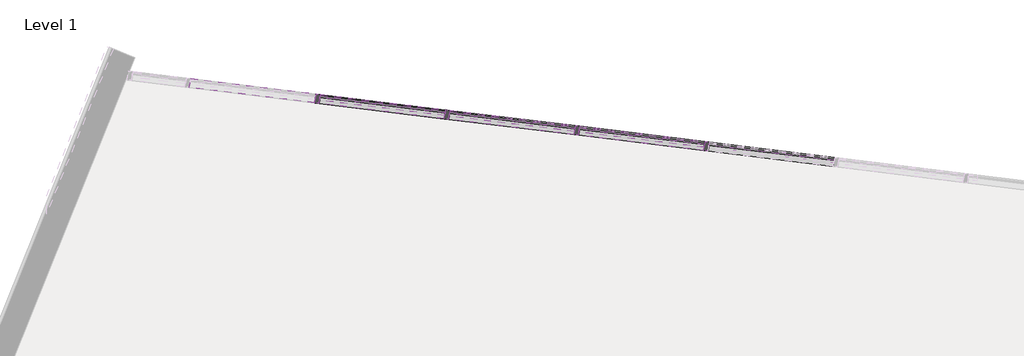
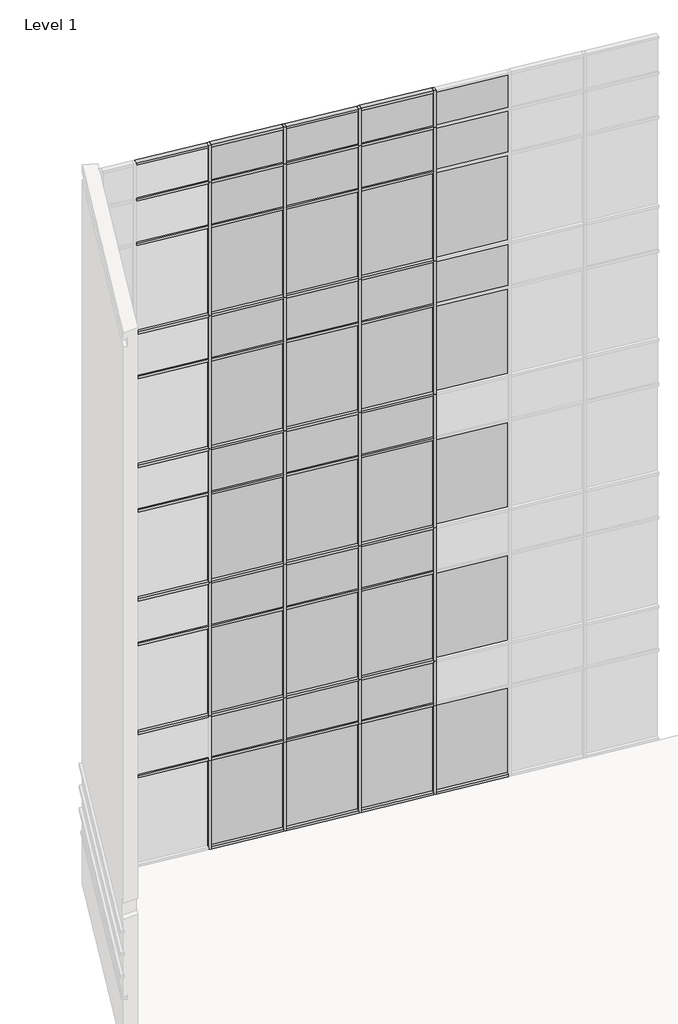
# One storey, part 16 of 23: 75 members, 41 plates.
"""IFC4 building model written with IfcOpenShell, lengths in millimetres."""

from ifc_helpers import new_model, si_unit, origin, place, context, project, spatial, transform, mapped, element, save
from components import member_2b49869a, member_f92b8aa2, member_810865a4, member_f0fea5a5, member_6d5c3e5e, member_9764dd38, system_panel_glazed_14c75400, system_panel_solid_5dfe6f83, system_panel_solid_e25e2004, system_panel_solid_b7551183

model = new_model("IFC4")

# Units and contexts
model_context = context("Model", 3, world=origin())
ifc_project = project(units=[si_unit("LENGTHUNIT", "METRE", prefix="MILLI")], contexts=[model_context])

# Site, building, storey
site = spatial("IfcSite", under=ifc_project)
building = spatial("IfcBuilding", under=site)
storey = spatial("IfcBuildingStorey", under=building, Name="Level 1", Elevation=0.0)

# Members
placement = place(None, origin())
member_shape = member_2b49869a(model_context)
element("IfcMember", 1, ObjectType="Rectangular Mullion : 2.5\" x 5\" rectangular", at=placement, inside=storey, context=model_context, shape_type="MappedRepresentation", body=[
    mapped(member_shape, transform((-22037.0151762, 14577.1664087, 2438.4), x_axis=(0.9925461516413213, -0.12186934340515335, 0.0), y_axis=(-0.12186934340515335, -0.9925461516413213, 0.0), z_axis=(0.0, 0.0, -1.0))),
])
element("IfcMember", 2, ObjectType="Rectangular Mullion : 2.5\" x 5\" rectangular", at=placement, inside=storey, context=model_context, shape_type="MappedRepresentation", body=[
    mapped(member_shape, transform((-23852.1835783, 14800.0410639, 2438.4), x_axis=(0.9925461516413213, -0.12186934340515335, 0.0), y_axis=(-0.12186934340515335, -0.9925461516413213, 0.0), z_axis=(0.0, 0.0, -1.0))),
])
element("IfcMember", 3, ObjectType="Rectangular Mullion : 2.5\" x 5\" rectangular", at=placement, inside=storey, context=model_context, shape_type="MappedRepresentation", body=[
    mapped(member_shape, transform((-25667.3519804, 15022.9157192, 2438.4), x_axis=(0.9925461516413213, -0.12186934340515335, 0.0), y_axis=(-0.12186934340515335, -0.9925461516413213, 0.0), z_axis=(0.0, 0.0, -1.0))),
])
member_2_shape = member_f92b8aa2(model_context)
element("IfcMember", 4, ObjectType="Rectangular Mullion : 2.5\" x 5\" rectangular", at=placement, inside=storey, context=model_context, shape_type="MappedRepresentation", body=[
    mapped(member_2_shape, transform((-22037.0151762, 14577.1664087, 18288.0), x_axis=(0.9925461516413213, -0.12186934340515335, 0.0), y_axis=(-0.12186934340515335, -0.9925461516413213, 0.0), z_axis=(0.0, 0.0, -1.0))),
])
element("IfcMember", 5, ObjectType="Rectangular Mullion : 2.5\" x 5\" rectangular", at=placement, inside=storey, context=model_context, shape_type="MappedRepresentation", body=[
    mapped(member_2_shape, transform((-23852.1835783, 14800.0410639, 18288.0), x_axis=(0.9925461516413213, -0.12186934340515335, 0.0), y_axis=(-0.12186934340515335, -0.9925461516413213, 0.0), z_axis=(0.0, 0.0, -1.0))),
])
element("IfcMember", 6, ObjectType="Rectangular Mullion : 2.5\" x 5\" rectangular", at=placement, inside=storey, context=model_context, shape_type="MappedRepresentation", body=[
    mapped(member_2_shape, transform((-25667.3519804, 15022.9157192, 18288.0), x_axis=(0.9925461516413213, -0.12186934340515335, 0.0), y_axis=(-0.12186934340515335, -0.9925461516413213, 0.0), z_axis=(0.0, 0.0, -1.0))),
])
element("IfcMember", 7, ObjectType="Rectangular Mullion : 2.5\" x 5\" rectangular", at=placement, inside=storey, context=model_context, shape_type="MappedRepresentation", body=[
    mapped(member_2_shape, transform((-27482.5203826, 15245.7903744, 18288.0), x_axis=(0.9925461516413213, -0.12186934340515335, 0.0), y_axis=(-0.12186934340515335, -0.9925461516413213, 0.0), z_axis=(0.0, 0.0, -1.0))),
])
member_3_shape = member_810865a4(model_context)
element("IfcMember", 8, ObjectType="Rectangular Mullion : 2.5\" x 5\" rectangular", at=placement, inside=storey, context=model_context, shape_type="MappedRepresentation", body=[
    mapped(member_3_shape, transform((-22037.0151762, 14577.1664087, 14630.4), x_axis=(0.9925461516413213, -0.12186934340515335, 0.0), y_axis=(-0.12186934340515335, -0.9925461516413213, 0.0), z_axis=(0.0, 0.0, -1.0))),
])
element("IfcMember", 9, ObjectType="Rectangular Mullion : 2.5\" x 5\" rectangular", at=placement, inside=storey, context=model_context, shape_type="MappedRepresentation", body=[
    mapped(member_3_shape, transform((-22037.0151762, 14577.1664087, 10972.8), x_axis=(0.9925461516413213, -0.12186934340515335, 0.0), y_axis=(-0.12186934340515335, -0.9925461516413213, 0.0), z_axis=(0.0, 0.0, -1.0))),
])
element("IfcMember", 10, ObjectType="Rectangular Mullion : 2.5\" x 5\" rectangular", at=placement, inside=storey, context=model_context, shape_type="MappedRepresentation", body=[
    mapped(member_3_shape, transform((-22037.0151762, 14577.1664087, 7315.2), x_axis=(0.9925461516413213, -0.12186934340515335, 0.0), y_axis=(-0.12186934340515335, -0.9925461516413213, 0.0), z_axis=(0.0, 0.0, -1.0))),
])
element("IfcMember", 11, ObjectType="Rectangular Mullion : 2.5\" x 5\" rectangular", at=placement, inside=storey, context=model_context, shape_type="MappedRepresentation", body=[
    mapped(member_3_shape, transform((-22037.0151762, 14577.1664087, 3657.6), x_axis=(0.9925461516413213, -0.12186934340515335, 0.0), y_axis=(-0.12186934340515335, -0.9925461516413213, 0.0), z_axis=(0.0, 0.0, -1.0))),
])
element("IfcMember", 12, ObjectType="Rectangular Mullion : 2.5\" x 5\" rectangular", at=placement, inside=storey, context=model_context, shape_type="MappedRepresentation", body=[
    mapped(member_3_shape, transform((-23852.1835783, 14800.0410639, 14630.4), x_axis=(0.9925461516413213, -0.12186934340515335, 0.0), y_axis=(-0.12186934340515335, -0.9925461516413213, 0.0), z_axis=(0.0, 0.0, -1.0))),
])
element("IfcMember", 13, ObjectType="Rectangular Mullion : 2.5\" x 5\" rectangular", at=placement, inside=storey, context=model_context, shape_type="MappedRepresentation", body=[
    mapped(member_3_shape, transform((-23852.1835783, 14800.0410639, 10972.8), x_axis=(0.9925461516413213, -0.12186934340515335, 0.0), y_axis=(-0.12186934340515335, -0.9925461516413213, 0.0), z_axis=(0.0, 0.0, -1.0))),
])
element("IfcMember", 14, ObjectType="Rectangular Mullion : 2.5\" x 5\" rectangular", at=placement, inside=storey, context=model_context, shape_type="MappedRepresentation", body=[
    mapped(member_3_shape, transform((-23852.1835783, 14800.0410639, 7315.2), x_axis=(0.9925461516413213, -0.12186934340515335, 0.0), y_axis=(-0.12186934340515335, -0.9925461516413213, 0.0), z_axis=(0.0, 0.0, -1.0))),
])
element("IfcMember", 15, ObjectType="Rectangular Mullion : 2.5\" x 5\" rectangular", at=placement, inside=storey, context=model_context, shape_type="MappedRepresentation", body=[
    mapped(member_3_shape, transform((-23852.1835783, 14800.0410639, 3657.6), x_axis=(0.9925461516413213, -0.12186934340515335, 0.0), y_axis=(-0.12186934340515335, -0.9925461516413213, 0.0), z_axis=(0.0, 0.0, -1.0))),
])
element("IfcMember", 16, ObjectType="Rectangular Mullion : 2.5\" x 5\" rectangular", at=placement, inside=storey, context=model_context, shape_type="MappedRepresentation", body=[
    mapped(member_3_shape, transform((-25667.3519804, 15022.9157192, 14630.4), x_axis=(0.9925461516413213, -0.12186934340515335, 0.0), y_axis=(-0.12186934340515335, -0.9925461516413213, 0.0), z_axis=(0.0, 0.0, -1.0))),
])
element("IfcMember", 17, ObjectType="Rectangular Mullion : 2.5\" x 5\" rectangular", at=placement, inside=storey, context=model_context, shape_type="MappedRepresentation", body=[
    mapped(member_3_shape, transform((-25667.3519804, 15022.9157192, 10972.8), x_axis=(0.9925461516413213, -0.12186934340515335, 0.0), y_axis=(-0.12186934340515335, -0.9925461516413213, 0.0), z_axis=(0.0, 0.0, -1.0))),
])
element("IfcMember", 18, ObjectType="Rectangular Mullion : 2.5\" x 5\" rectangular", at=placement, inside=storey, context=model_context, shape_type="MappedRepresentation", body=[
    mapped(member_3_shape, transform((-25667.3519804, 15022.9157192, 7315.2), x_axis=(0.9925461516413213, -0.12186934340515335, 0.0), y_axis=(-0.12186934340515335, -0.9925461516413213, 0.0), z_axis=(0.0, 0.0, -1.0))),
])
element("IfcMember", 19, ObjectType="Rectangular Mullion : 2.5\" x 5\" rectangular", at=placement, inside=storey, context=model_context, shape_type="MappedRepresentation", body=[
    mapped(member_3_shape, transform((-25667.3519804, 15022.9157192, 3657.6), x_axis=(0.9925461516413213, -0.12186934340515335, 0.0), y_axis=(-0.12186934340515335, -0.9925461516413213, 0.0), z_axis=(0.0, 0.0, -1.0))),
])
element("IfcMember", 20, ObjectType="Rectangular Mullion : 2.5\" x 5\" rectangular", at=placement, inside=storey, context=model_context, shape_type="MappedRepresentation", body=[
    mapped(member_3_shape, transform((-27482.5203826, 15245.7903744, 14630.4), x_axis=(0.9925461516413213, -0.12186934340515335, 0.0), y_axis=(-0.12186934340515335, -0.9925461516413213, 0.0), z_axis=(0.0, 0.0, -1.0))),
])
element("IfcMember", 21, ObjectType="Rectangular Mullion : 2.5\" x 5\" rectangular", at=placement, inside=storey, context=model_context, shape_type="MappedRepresentation", body=[
    mapped(member_3_shape, transform((-27482.5203826, 15245.7903744, 10972.8), x_axis=(0.9925461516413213, -0.12186934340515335, 0.0), y_axis=(-0.12186934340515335, -0.9925461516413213, 0.0), z_axis=(0.0, 0.0, -1.0))),
])
element("IfcMember", 22, ObjectType="Rectangular Mullion : 2.5\" x 5\" rectangular", at=placement, inside=storey, context=model_context, shape_type="MappedRepresentation", body=[
    mapped(member_3_shape, transform((-27482.5203826, 15245.7903744, 7315.2), x_axis=(0.9925461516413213, -0.12186934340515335, 0.0), y_axis=(-0.12186934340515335, -0.9925461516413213, 0.0), z_axis=(0.0, 0.0, -1.0))),
])
element("IfcMember", 23, ObjectType="Rectangular Mullion : 2.5\" x 5\" rectangular", at=placement, inside=storey, context=model_context, shape_type="MappedRepresentation", body=[
    mapped(member_3_shape, transform((-27482.5203826, 15245.7903744, 3657.6), x_axis=(0.9925461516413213, -0.12186934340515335, 0.0), y_axis=(-0.12186934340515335, -0.9925461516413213, 0.0), z_axis=(0.0, 0.0, -1.0))),
])
member_4_shape = member_f0fea5a5(model_context)
element("IfcMember", 24, ObjectType="Rectangular Mullion : 2.5\" x 5\" rectangular", at=placement, inside=storey, context=model_context, shape_type="MappedRepresentation", body=[
    mapped(member_4_shape, transform((-22037.0151762, 14577.1664087, 0.0), x_axis=(0.9925461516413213, -0.12186934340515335, 0.0), y_axis=(-0.12186934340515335, -0.9925461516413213, 0.0), z_axis=(0.0, 0.0, -1.0))),
])
element("IfcMember", 25, ObjectType="Rectangular Mullion : 2.5\" x 5\" rectangular", at=placement, inside=storey, context=model_context, shape_type="MappedRepresentation", body=[
    mapped(member_4_shape, transform((-27482.5203826, 15245.7903744, 0.0), x_axis=(0.9925461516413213, -0.12186934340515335, 0.0), y_axis=(-0.12186934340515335, -0.9925461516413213, 0.0), z_axis=(0.0, 0.0, -1.0))),
])
element("IfcMember", 26, ObjectType="Rectangular Mullion : 2.5\" x 5\" rectangular", at=placement, inside=storey, context=model_context, shape_type="MappedRepresentation", body=[
    mapped(member_4_shape, transform((-23852.1835783, 14800.0410639, 0.0), x_axis=(0.9925461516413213, -0.12186934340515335, 0.0), y_axis=(-0.12186934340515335, -0.9925461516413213, 0.0), z_axis=(0.0, 0.0, -1.0))),
])
element("IfcMember", 27, ObjectType="Rectangular Mullion : 2.5\" x 5\" rectangular", at=placement, inside=storey, context=model_context, shape_type="MappedRepresentation", body=[
    mapped(member_4_shape, transform((-25667.3519804, 15022.9157192, 0.0), x_axis=(0.9925461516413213, -0.12186934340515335, 0.0), y_axis=(-0.12186934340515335, -0.9925461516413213, 0.0), z_axis=(0.0, 0.0, -1.0))),
])
member_5_shape = member_6d5c3e5e(model_context)
element("IfcMember", 28, ObjectType="Rectangular Mullion : 2.5\" x 5\" rectangular", at=placement, inside=storey, context=model_context, shape_type="MappedRepresentation", body=[
    mapped(member_5_shape, transform((-22068.5285165, 14581.0357604, 19304.0), x_axis=(0.0, 0.0, 1.0), y_axis=(-0.12186934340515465, -0.9925461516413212, 0.0), z_axis=(0.9925461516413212, -0.12186934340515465, 0.0))),
])
element("IfcMember", 29, ObjectType="Rectangular Mullion : 2.5\" x 5\" rectangular", at=placement, inside=storey, context=model_context, shape_type="MappedRepresentation", body=[
    mapped(member_5_shape, transform((-23883.6969186, 14803.9104156, 19304.0), x_axis=(0.0, 0.0, 1.0), y_axis=(-0.12186934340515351, -0.9925461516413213, 0.0), z_axis=(0.9925461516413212, -0.1218693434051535, 0.0))),
])
element("IfcMember", 30, ObjectType="Rectangular Mullion : 2.5\" x 5\" rectangular", at=placement, inside=storey, context=model_context, shape_type="MappedRepresentation", body=[
    mapped(member_5_shape, transform((-25698.8653208, 15026.7850708, 19304.0), x_axis=(0.0, 0.0, 1.0), y_axis=(-0.12186934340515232, -0.9925461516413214, 0.0), z_axis=(0.9925461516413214, -0.12186934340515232, 0.0))),
])
element("IfcMember", 31, ObjectType="Rectangular Mullion : 2.5\" x 5\" rectangular", at=placement, inside=storey, context=model_context, shape_type="MappedRepresentation", body=[
    mapped(member_5_shape, transform((-27514.0337229, 15249.659726, 19304.0), x_axis=(0.0, 0.0, 1.0), y_axis=(-0.12186934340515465, -0.9925461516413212, 0.0), z_axis=(0.9925461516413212, -0.12186934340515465, 0.0))),
])
member_6_shape = member_9764dd38(model_context)
element("IfcMember", 32, ObjectType="Rectangular Mullion : 2.5\" x 5\" rectangular", at=placement, inside=storey, context=model_context, shape_type="MappedRepresentation", body=[
    mapped(member_6_shape, transform((-22068.5285165, 14581.0357604, 17068.8), x_axis=(0.0, 0.0, 1.0), y_axis=(-0.12186934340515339, -0.9925461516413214, 0.0), z_axis=(0.9925461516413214, -0.12186934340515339, 0.0))),
])
element("IfcMember", 33, ObjectType="Rectangular Mullion : 2.5\" x 5\" rectangular", at=placement, inside=storey, context=model_context, shape_type="MappedRepresentation", body=[
    mapped(member_6_shape, transform((-23883.6969186, 14803.9104156, 17068.8), x_axis=(0.0, 0.0, 1.0), y_axis=(-0.12186934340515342, -0.9925461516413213, 0.0), z_axis=(0.9925461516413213, -0.12186934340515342, 0.0))),
])
element("IfcMember", 34, ObjectType="Rectangular Mullion : 2.5\" x 5\" rectangular", at=placement, inside=storey, context=model_context, shape_type="MappedRepresentation", body=[
    mapped(member_6_shape, transform((-25698.8653208, 15026.7850708, 17068.8), x_axis=(0.0, 0.0, 1.0), y_axis=(-0.12186934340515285, -0.9925461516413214, 0.0), z_axis=(0.9925461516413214, -0.12186934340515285, 0.0))),
])
element("IfcMember", 35, ObjectType="Rectangular Mullion : 2.5\" x 5\" rectangular", at=placement, inside=storey, context=model_context, shape_type="MappedRepresentation", body=[
    mapped(member_6_shape, transform((-27514.0337229, 15249.659726, 17068.8), x_axis=(0.0, 0.0, 1.0), y_axis=(-0.12186934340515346, -0.9925461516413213, 0.0), z_axis=(0.9925461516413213, -0.12186934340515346, 0.0))),
])
element("IfcMember", 36, ObjectType="Rectangular Mullion : 2.5\" x 5\" rectangular", at=placement, inside=storey, context=model_context, shape_type="MappedRepresentation", body=[
    mapped(member_6_shape, transform((-22068.5285165, 14581.0357604, 13411.2), x_axis=(0.0, 0.0, 1.0), y_axis=(-0.12186934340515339, -0.9925461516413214, 0.0), z_axis=(0.9925461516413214, -0.12186934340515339, 0.0))),
])
element("IfcMember", 37, ObjectType="Rectangular Mullion : 2.5\" x 5\" rectangular", at=placement, inside=storey, context=model_context, shape_type="MappedRepresentation", body=[
    mapped(member_6_shape, transform((-23883.6969186, 14803.9104156, 13411.2), x_axis=(0.0, 0.0, 1.0), y_axis=(-0.12186934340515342, -0.9925461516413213, 0.0), z_axis=(0.9925461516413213, -0.12186934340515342, 0.0))),
])
element("IfcMember", 38, ObjectType="Rectangular Mullion : 2.5\" x 5\" rectangular", at=placement, inside=storey, context=model_context, shape_type="MappedRepresentation", body=[
    mapped(member_6_shape, transform((-25698.8653208, 15026.7850708, 13411.2), x_axis=(0.0, 0.0, 1.0), y_axis=(-0.12186934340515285, -0.9925461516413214, 0.0), z_axis=(0.9925461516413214, -0.12186934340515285, 0.0))),
])
element("IfcMember", 39, ObjectType="Rectangular Mullion : 2.5\" x 5\" rectangular", at=placement, inside=storey, context=model_context, shape_type="MappedRepresentation", body=[
    mapped(member_6_shape, transform((-27514.0337229, 15249.659726, 13411.2), x_axis=(0.0, 0.0, 1.0), y_axis=(-0.12186934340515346, -0.9925461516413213, 0.0), z_axis=(0.9925461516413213, -0.12186934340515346, 0.0))),
])
element("IfcMember", 40, ObjectType="Rectangular Mullion : 2.5\" x 5\" rectangular", at=placement, inside=storey, context=model_context, shape_type="MappedRepresentation", body=[
    mapped(member_6_shape, transform((-22068.5285165, 14581.0357604, 9753.6), x_axis=(0.0, 0.0, 1.0), y_axis=(-0.12186934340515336, -0.9925461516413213, 0.0), z_axis=(0.9925461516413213, -0.12186934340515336, 0.0))),
])
element("IfcMember", 41, ObjectType="Rectangular Mullion : 2.5\" x 5\" rectangular", at=placement, inside=storey, context=model_context, shape_type="MappedRepresentation", body=[
    mapped(member_6_shape, transform((-23883.6969186, 14803.9104156, 9753.6), x_axis=(0.0, 0.0, 1.0), y_axis=(-0.12186934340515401, -0.9925461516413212, 0.0), z_axis=(0.9925461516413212, -0.12186934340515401, 0.0))),
])
element("IfcMember", 42, ObjectType="Rectangular Mullion : 2.5\" x 5\" rectangular", at=placement, inside=storey, context=model_context, shape_type="MappedRepresentation", body=[
    mapped(member_6_shape, transform((-25698.8653208, 15026.7850708, 9753.6), x_axis=(0.0, 0.0, 1.0), y_axis=(-0.12186934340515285, -0.9925461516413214, 0.0), z_axis=(0.9925461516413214, -0.12186934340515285, 0.0))),
])
element("IfcMember", 43, ObjectType="Rectangular Mullion : 2.5\" x 5\" rectangular", at=placement, inside=storey, context=model_context, shape_type="MappedRepresentation", body=[
    mapped(member_6_shape, transform((-27514.0337229, 15249.659726, 9753.6), x_axis=(0.0, 0.0, 1.0), y_axis=(-0.12186934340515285, -0.9925461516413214, 0.0), z_axis=(0.9925461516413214, -0.12186934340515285, 0.0))),
])
element("IfcMember", 44, ObjectType="Rectangular Mullion : 2.5\" x 5\" rectangular", at=placement, inside=storey, context=model_context, shape_type="MappedRepresentation", body=[
    mapped(member_6_shape, transform((-22068.5285165, 14581.0357604, 6096.0), x_axis=(0.0, 0.0, 1.0), y_axis=(-0.12186934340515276, -0.9925461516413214, 0.0), z_axis=(0.9925461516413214, -0.12186934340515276, 0.0))),
])
element("IfcMember", 45, ObjectType="Rectangular Mullion : 2.5\" x 5\" rectangular", at=placement, inside=storey, context=model_context, shape_type="MappedRepresentation", body=[
    mapped(member_6_shape, transform((-23883.6969186, 14803.9104156, 6096.0), x_axis=(0.0, 0.0, 1.0), y_axis=(-0.12186934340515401, -0.9925461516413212, 0.0), z_axis=(0.9925461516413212, -0.12186934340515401, 0.0))),
])
element("IfcMember", 46, ObjectType="Rectangular Mullion : 2.5\" x 5\" rectangular", at=placement, inside=storey, context=model_context, shape_type="MappedRepresentation", body=[
    mapped(member_6_shape, transform((-25698.8653208, 15026.7850708, 6096.0), x_axis=(0.0, 0.0, 1.0), y_axis=(-0.12186934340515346, -0.9925461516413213, 0.0), z_axis=(0.9925461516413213, -0.12186934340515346, 0.0))),
])
element("IfcMember", 47, ObjectType="Rectangular Mullion : 2.5\" x 5\" rectangular", at=placement, inside=storey, context=model_context, shape_type="MappedRepresentation", body=[
    mapped(member_6_shape, transform((-27514.0337229, 15249.659726, 6096.0), x_axis=(0.0, 0.0, 1.0), y_axis=(-0.12186934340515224, -0.9925461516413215, 0.0), z_axis=(0.9925461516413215, -0.12186934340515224, 0.0))),
])
element("IfcMember", 48, ObjectType="Rectangular Mullion : 2.5\" x 5\" rectangular", at=placement, inside=storey, context=model_context, shape_type="MappedRepresentation", body=[
    mapped(member_6_shape, transform((-22068.5285165, 14581.0357604, 2470.15), x_axis=(0.0, 0.0, 1.0), y_axis=(-0.12186934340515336, -0.9925461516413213, 0.0), z_axis=(0.9925461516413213, -0.12186934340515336, 0.0))),
])
element("IfcMember", 49, ObjectType="Rectangular Mullion : 2.5\" x 5\" rectangular", at=placement, inside=storey, context=model_context, shape_type="MappedRepresentation", body=[
    mapped(member_6_shape, transform((-23883.6969186, 14803.9104156, 2470.15), x_axis=(0.0, 0.0, 1.0), y_axis=(-0.12186934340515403, -0.9925461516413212, 0.0), z_axis=(0.9925461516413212, -0.12186934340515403, 0.0))),
])
element("IfcMember", 50, ObjectType="Rectangular Mullion : 2.5\" x 5\" rectangular", at=placement, inside=storey, context=model_context, shape_type="MappedRepresentation", body=[
    mapped(member_6_shape, transform((-25698.8653208, 15026.7850708, 2470.15), x_axis=(0.0, 0.0, 1.0), y_axis=(-0.12186934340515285, -0.9925461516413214, 0.0), z_axis=(0.9925461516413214, -0.12186934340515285, 0.0))),
])
element("IfcMember", 51, ObjectType="Rectangular Mullion : 2.5\" x 5\" rectangular", at=placement, inside=storey, context=model_context, shape_type="MappedRepresentation", body=[
    mapped(member_6_shape, transform((-27514.0337229, 15249.659726, 2470.15), x_axis=(0.0, 0.0, 1.0), y_axis=(-0.12186934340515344, -0.9925461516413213, 0.0), z_axis=(0.9925461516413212, -0.12186934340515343, 0.0))),
])
element("IfcMember", 52, ObjectType="Rectangular Mullion : 2.5\" x 5\" rectangular", at=placement, inside=storey, context=model_context, shape_type="MappedRepresentation", body=[
    mapped(member_5_shape, transform((-22005.5018359, 14573.2970571, 0.0), x_axis=(0.0, 0.0, -1.0), y_axis=(-0.12186934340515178, -0.9925461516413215, 0.0), z_axis=(-0.9925461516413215, 0.12186934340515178, 0.0))),
])
element("IfcMember", 53, ObjectType="Rectangular Mullion : 2.5\" x 5\" rectangular", at=placement, inside=storey, context=model_context, shape_type="MappedRepresentation", body=[
    mapped(member_5_shape, transform((-23820.670238, 14796.1717123, 0.0), x_axis=(0.0, 0.0, -1.0), y_axis=(-0.12186934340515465, -0.9925461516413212, 0.0), z_axis=(-0.9925461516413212, 0.12186934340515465, 0.0))),
])
element("IfcMember", 54, ObjectType="Rectangular Mullion : 2.5\" x 5\" rectangular", at=placement, inside=storey, context=model_context, shape_type="MappedRepresentation", body=[
    mapped(member_5_shape, transform((-25635.8386401, 15019.0463675, 0.0), x_axis=(0.0, 0.0, -1.0), y_axis=(-0.12186934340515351, -0.9925461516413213, 0.0), z_axis=(-0.9925461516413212, 0.1218693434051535, 0.0))),
])
element("IfcMember", 55, ObjectType="Rectangular Mullion : 2.5\" x 5\" rectangular", at=placement, inside=storey, context=model_context, shape_type="MappedRepresentation", body=[
    mapped(member_5_shape, transform((-27451.0070423, 15241.9210227, 0.0), x_axis=(0.0, 0.0, -1.0), y_axis=(-0.12186934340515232, -0.9925461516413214, 0.0), z_axis=(-0.9925461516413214, 0.12186934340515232, 0.0))),
])
element("IfcMember", 56, ObjectType="Rectangular Mullion : 2.5\" x 5\" rectangular", at=placement, inside=storey, context=model_context, shape_type="MappedRepresentation", body=[
    mapped(member_6_shape, transform((-22068.5285165, 14581.0357604, 3657.6), x_axis=(0.0, 0.0, 1.0), y_axis=(-0.12186934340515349, -0.9925461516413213, 0.0), z_axis=(0.9925461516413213, -0.12186934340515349, 0.0))),
])
element("IfcMember", 57, ObjectType="Rectangular Mullion : 2.5\" x 5\" rectangular", at=placement, inside=storey, context=model_context, shape_type="MappedRepresentation", body=[
    mapped(member_6_shape, transform((-23883.6969186, 14803.9104156, 3657.6), x_axis=(0.0, 0.0, 1.0), y_axis=(-0.12186934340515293, -0.9925461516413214, 0.0), z_axis=(0.9925461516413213, -0.12186934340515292, 0.0))),
])
element("IfcMember", 58, ObjectType="Rectangular Mullion : 2.5\" x 5\" rectangular", at=placement, inside=storey, context=model_context, shape_type="MappedRepresentation", body=[
    mapped(member_6_shape, transform((-27514.0337229, 15249.659726, 10972.8), x_axis=(0.0, 0.0, 1.0), y_axis=(-0.12186934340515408, -0.9925461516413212, 0.0), z_axis=(0.9925461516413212, -0.12186934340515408, 0.0))),
])
element("IfcMember", 59, ObjectType="Rectangular Mullion : 2.5\" x 5\" rectangular", at=placement, inside=storey, context=model_context, shape_type="MappedRepresentation", body=[
    mapped(member_6_shape, transform((-22068.5285165, 14581.0357604, 10972.8), x_axis=(0.0, 0.0, 1.0), y_axis=(-0.12186934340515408, -0.9925461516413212, 0.0), z_axis=(0.9925461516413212, -0.12186934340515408, 0.0))),
])
element("IfcMember", 60, ObjectType="Rectangular Mullion : 2.5\" x 5\" rectangular", at=placement, inside=storey, context=model_context, shape_type="MappedRepresentation", body=[
    mapped(member_6_shape, transform((-23883.6969186, 14803.9104156, 10972.8), x_axis=(0.0, 0.0, 1.0), y_axis=(-0.12186934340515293, -0.9925461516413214, 0.0), z_axis=(0.9925461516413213, -0.12186934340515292, 0.0))),
])
element("IfcMember", 61, ObjectType="Rectangular Mullion : 2.5\" x 5\" rectangular", at=placement, inside=storey, context=model_context, shape_type="MappedRepresentation", body=[
    mapped(member_6_shape, transform((-25698.8653208, 15026.7850708, 10972.8), x_axis=(0.0, 0.0, 1.0), y_axis=(-0.12186934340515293, -0.9925461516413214, 0.0), z_axis=(0.9925461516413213, -0.12186934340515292, 0.0))),
])
element("IfcMember", 62, ObjectType="Rectangular Mullion : 2.5\" x 5\" rectangular", at=placement, inside=storey, context=model_context, shape_type="MappedRepresentation", body=[
    mapped(member_6_shape, transform((-22068.5285165, 14581.0357604, 7315.2), x_axis=(0.0, 0.0, 1.0), y_axis=(-0.12186934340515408, -0.9925461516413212, 0.0), z_axis=(0.9925461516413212, -0.12186934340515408, 0.0))),
])
element("IfcMember", 63, ObjectType="Rectangular Mullion : 2.5\" x 5\" rectangular", at=placement, inside=storey, context=model_context, shape_type="MappedRepresentation", body=[
    mapped(member_6_shape, transform((-23883.6969186, 14803.9104156, 7315.2), x_axis=(0.0, 0.0, 1.0), y_axis=(-0.12186934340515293, -0.9925461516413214, 0.0), z_axis=(0.9925461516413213, -0.12186934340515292, 0.0))),
])
element("IfcMember", 64, ObjectType="Rectangular Mullion : 2.5\" x 5\" rectangular", at=placement, inside=storey, context=model_context, shape_type="MappedRepresentation", body=[
    mapped(member_6_shape, transform((-25698.8653208, 15026.7850708, 7315.2), x_axis=(0.0, 0.0, 1.0), y_axis=(-0.12186934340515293, -0.9925461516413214, 0.0), z_axis=(0.9925461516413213, -0.12186934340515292, 0.0))),
])
element("IfcMember", 65, ObjectType="Rectangular Mullion : 2.5\" x 5\" rectangular", at=placement, inside=storey, context=model_context, shape_type="MappedRepresentation", body=[
    mapped(member_6_shape, transform((-27514.0337229, 15249.659726, 7315.2), x_axis=(0.0, 0.0, 1.0), y_axis=(-0.12186934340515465, -0.9925461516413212, 0.0), z_axis=(0.9925461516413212, -0.12186934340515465, 0.0))),
])
element("IfcMember", 66, ObjectType="Rectangular Mullion : 2.5\" x 5\" rectangular", at=placement, inside=storey, context=model_context, shape_type="MappedRepresentation", body=[
    mapped(member_6_shape, transform((-22068.5285165, 14581.0357604, 18288.0), x_axis=(0.0, 0.0, 1.0), y_axis=(-0.12186934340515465, -0.9925461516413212, 0.0), z_axis=(0.9925461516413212, -0.12186934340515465, 0.0))),
])
element("IfcMember", 67, ObjectType="Rectangular Mullion : 2.5\" x 5\" rectangular", at=placement, inside=storey, context=model_context, shape_type="MappedRepresentation", body=[
    mapped(member_6_shape, transform((-23883.6969186, 14803.9104156, 18288.0), x_axis=(0.0, 0.0, 1.0), y_axis=(-0.12186934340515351, -0.9925461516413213, 0.0), z_axis=(0.9925461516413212, -0.1218693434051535, 0.0))),
])
element("IfcMember", 68, ObjectType="Rectangular Mullion : 2.5\" x 5\" rectangular", at=placement, inside=storey, context=model_context, shape_type="MappedRepresentation", body=[
    mapped(member_6_shape, transform((-25698.8653208, 15026.7850708, 18288.0), x_axis=(0.0, 0.0, 1.0), y_axis=(-0.12186934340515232, -0.9925461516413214, 0.0), z_axis=(0.9925461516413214, -0.12186934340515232, 0.0))),
])
element("IfcMember", 69, ObjectType="Rectangular Mullion : 2.5\" x 5\" rectangular", at=placement, inside=storey, context=model_context, shape_type="MappedRepresentation", body=[
    mapped(member_6_shape, transform((-27514.0337229, 15249.659726, 18288.0), x_axis=(0.0, 0.0, 1.0), y_axis=(-0.12186934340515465, -0.9925461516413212, 0.0), z_axis=(0.9925461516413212, -0.12186934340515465, 0.0))),
])
element("IfcMember", 70, ObjectType="Rectangular Mullion : 2.5\" x 5\" rectangular", at=placement, inside=storey, context=model_context, shape_type="MappedRepresentation", body=[
    mapped(member_6_shape, transform((-22068.5285165, 14581.0357604, 14630.4), x_axis=(0.0, 0.0, 1.0), y_axis=(-0.12186934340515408, -0.9925461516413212, 0.0), z_axis=(0.9925461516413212, -0.12186934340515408, 0.0))),
])
element("IfcMember", 71, ObjectType="Rectangular Mullion : 2.5\" x 5\" rectangular", at=placement, inside=storey, context=model_context, shape_type="MappedRepresentation", body=[
    mapped(member_6_shape, transform((-23883.6969186, 14803.9104156, 14630.4), x_axis=(0.0, 0.0, 1.0), y_axis=(-0.12186934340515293, -0.9925461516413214, 0.0), z_axis=(0.9925461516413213, -0.12186934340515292, 0.0))),
])
element("IfcMember", 72, ObjectType="Rectangular Mullion : 2.5\" x 5\" rectangular", at=placement, inside=storey, context=model_context, shape_type="MappedRepresentation", body=[
    mapped(member_6_shape, transform((-25698.8653208, 15026.7850708, 14630.4), x_axis=(0.0, 0.0, 1.0), y_axis=(-0.12186934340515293, -0.9925461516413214, 0.0), z_axis=(0.9925461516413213, -0.12186934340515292, 0.0))),
])
element("IfcMember", 73, ObjectType="Rectangular Mullion : 2.5\" x 5\" rectangular", at=placement, inside=storey, context=model_context, shape_type="MappedRepresentation", body=[
    mapped(member_6_shape, transform((-27514.0337229, 15249.659726, 14630.4), x_axis=(0.0, 0.0, 1.0), y_axis=(-0.12186934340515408, -0.9925461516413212, 0.0), z_axis=(0.9925461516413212, -0.12186934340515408, 0.0))),
])
element("IfcMember", 74, ObjectType="Rectangular Mullion : 2.5\" x 5\" rectangular", at=placement, inside=storey, context=model_context, shape_type="MappedRepresentation", body=[
    mapped(member_6_shape, transform((-25698.8653208, 15026.7850708, 3657.6), x_axis=(0.0, 0.0, 1.0), y_axis=(-0.12186934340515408, -0.9925461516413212, 0.0), z_axis=(0.9925461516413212, -0.12186934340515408, 0.0))),
])
element("IfcMember", 75, ObjectType="Rectangular Mullion : 2.5\" x 5\" rectangular", at=placement, inside=storey, context=model_context, shape_type="MappedRepresentation", body=[
    mapped(member_6_shape, transform((-27514.0337229, 15249.659726, 3657.6), x_axis=(0.0, 0.0, 1.0), y_axis=(-0.12186934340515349, -0.9925461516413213, 0.0), z_axis=(0.9925461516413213, -0.12186934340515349, 0.0))),
])

# Plates
system_panel_glazed_shape = system_panel_glazed_14c75400(model_context)
element("IfcPlate", 76, ObjectType="System Panel : Glazed", at=placement, inside=storey, context=model_context, shape_type="MappedRepresentation", body=[
    mapped(system_panel_glazed_shape, transform((-21129.4309751, 14465.7290811, 14662.15), x_axis=(0.9925461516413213, -0.12186934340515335, 0.0), y_axis=(0.12186934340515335, 0.9925461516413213, 0.0), z_axis=(0.0, 0.0, 1.0))),
])
element("IfcPlate", 77, ObjectType="System Panel : Glazed", at=placement, inside=storey, context=model_context, shape_type="MappedRepresentation", body=[
    mapped(system_panel_glazed_shape, transform((-22944.5993773, 14688.6037363, 14662.15), x_axis=(0.9925461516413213, -0.12186934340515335, 0.0), y_axis=(0.12186934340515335, 0.9925461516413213, 0.0), z_axis=(0.0, 0.0, 1.0))),
])
element("IfcPlate", 78, ObjectType="System Panel : Glazed", at=placement, inside=storey, context=model_context, shape_type="MappedRepresentation", body=[
    mapped(system_panel_glazed_shape, transform((-24759.7677794, 14911.4783915, 14662.15), x_axis=(0.9925461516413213, -0.12186934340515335, 0.0), y_axis=(0.12186934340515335, 0.9925461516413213, 0.0), z_axis=(0.0, 0.0, 1.0))),
])
element("IfcPlate", 79, ObjectType="System Panel : Glazed", at=placement, inside=storey, context=model_context, shape_type="MappedRepresentation", body=[
    mapped(system_panel_glazed_shape, transform((-26574.9361815, 15134.3530468, 14662.15), x_axis=(0.9925461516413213, -0.12186934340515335, 0.0), y_axis=(0.12186934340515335, 0.9925461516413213, 0.0), z_axis=(0.0, 0.0, 1.0))),
])
element("IfcPlate", 80, ObjectType="System Panel : Glazed", at=placement, inside=storey, context=model_context, shape_type="MappedRepresentation", body=[
    mapped(system_panel_glazed_shape, transform((-21129.4309751, 14465.7290811, 11004.55), x_axis=(0.9925461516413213, -0.12186934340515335, 0.0), y_axis=(0.12186934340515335, 0.9925461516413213, 0.0), z_axis=(0.0, 0.0, 1.0))),
])
element("IfcPlate", 81, ObjectType="System Panel : Glazed", at=placement, inside=storey, context=model_context, shape_type="MappedRepresentation", body=[
    mapped(system_panel_glazed_shape, transform((-22944.5993773, 14688.6037363, 11004.55), x_axis=(0.9925461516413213, -0.12186934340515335, 0.0), y_axis=(0.12186934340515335, 0.9925461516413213, 0.0), z_axis=(0.0, 0.0, 1.0))),
])
element("IfcPlate", 82, ObjectType="System Panel : Glazed", at=placement, inside=storey, context=model_context, shape_type="MappedRepresentation", body=[
    mapped(system_panel_glazed_shape, transform((-24759.7677794, 14911.4783915, 11004.55), x_axis=(0.9925461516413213, -0.12186934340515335, 0.0), y_axis=(0.12186934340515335, 0.9925461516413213, 0.0), z_axis=(0.0, 0.0, 1.0))),
])
element("IfcPlate", 83, ObjectType="System Panel : Glazed", at=placement, inside=storey, context=model_context, shape_type="MappedRepresentation", body=[
    mapped(system_panel_glazed_shape, transform((-26574.9361815, 15134.3530468, 11004.55), x_axis=(0.9925461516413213, -0.12186934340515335, 0.0), y_axis=(0.12186934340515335, 0.9925461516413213, 0.0), z_axis=(0.0, 0.0, 1.0))),
])
element("IfcPlate", 84, ObjectType="System Panel : Glazed", at=placement, inside=storey, context=model_context, shape_type="MappedRepresentation", body=[
    mapped(system_panel_glazed_shape, transform((-21129.4309751, 14465.7290811, 7346.95), x_axis=(0.9925461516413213, -0.12186934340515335, 0.0), y_axis=(0.12186934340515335, 0.9925461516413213, 0.0), z_axis=(0.0, 0.0, 1.0))),
])
element("IfcPlate", 85, ObjectType="System Panel : Glazed", at=placement, inside=storey, context=model_context, shape_type="MappedRepresentation", body=[
    mapped(system_panel_glazed_shape, transform((-22944.5993773, 14688.6037363, 7346.95), x_axis=(0.9925461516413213, -0.12186934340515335, 0.0), y_axis=(0.12186934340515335, 0.9925461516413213, 0.0), z_axis=(0.0, 0.0, 1.0))),
])
element("IfcPlate", 86, ObjectType="System Panel : Glazed", at=placement, inside=storey, context=model_context, shape_type="MappedRepresentation", body=[
    mapped(system_panel_glazed_shape, transform((-24759.7677794, 14911.4783915, 7346.95), x_axis=(0.9925461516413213, -0.12186934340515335, 0.0), y_axis=(0.12186934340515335, 0.9925461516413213, 0.0), z_axis=(0.0, 0.0, 1.0))),
])
element("IfcPlate", 87, ObjectType="System Panel : Glazed", at=placement, inside=storey, context=model_context, shape_type="MappedRepresentation", body=[
    mapped(system_panel_glazed_shape, transform((-26574.9361815, 15134.3530468, 7346.95), x_axis=(0.9925461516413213, -0.12186934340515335, 0.0), y_axis=(0.12186934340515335, 0.9925461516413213, 0.0), z_axis=(0.0, 0.0, 1.0))),
])
element("IfcPlate", 88, ObjectType="System Panel : Glazed", at=placement, inside=storey, context=model_context, shape_type="MappedRepresentation", body=[
    mapped(system_panel_glazed_shape, transform((-21129.4309751, 14465.7290811, 3689.35), x_axis=(0.9925461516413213, -0.12186934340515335, 0.0), y_axis=(0.12186934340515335, 0.9925461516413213, 0.0), z_axis=(0.0, 0.0, 1.0))),
])
element("IfcPlate", 89, ObjectType="System Panel : Glazed", at=placement, inside=storey, context=model_context, shape_type="MappedRepresentation", body=[
    mapped(system_panel_glazed_shape, transform((-22944.5993773, 14688.6037363, 3689.35), x_axis=(0.9925461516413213, -0.12186934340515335, 0.0), y_axis=(0.12186934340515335, 0.9925461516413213, 0.0), z_axis=(0.0, 0.0, 1.0))),
])
element("IfcPlate", 90, ObjectType="System Panel : Glazed", at=placement, inside=storey, context=model_context, shape_type="MappedRepresentation", body=[
    mapped(system_panel_glazed_shape, transform((-24759.7677794, 14911.4783915, 3689.35), x_axis=(0.9925461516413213, -0.12186934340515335, 0.0), y_axis=(0.12186934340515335, 0.9925461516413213, 0.0), z_axis=(0.0, 0.0, 1.0))),
])
element("IfcPlate", 91, ObjectType="System Panel : Glazed", at=placement, inside=storey, context=model_context, shape_type="MappedRepresentation", body=[
    mapped(system_panel_glazed_shape, transform((-26574.9361815, 15134.3530468, 3689.35), x_axis=(0.9925461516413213, -0.12186934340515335, 0.0), y_axis=(0.12186934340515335, 0.9925461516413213, 0.0), z_axis=(0.0, 0.0, 1.0))),
])
element("IfcPlate", 92, ObjectType="System Panel : Glazed", at=placement, inside=storey, context=model_context, shape_type="MappedRepresentation", body=[
    mapped(system_panel_glazed_shape, transform((-21129.4309751, 14465.7290811, 63.5), x_axis=(0.9925461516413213, -0.12186934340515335, 0.0), y_axis=(0.12186934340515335, 0.9925461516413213, 0.0), z_axis=(0.0, 0.0, 1.0))),
])
element("IfcPlate", 93, ObjectType="System Panel : Glazed", at=placement, inside=storey, context=model_context, shape_type="MappedRepresentation", body=[
    mapped(system_panel_glazed_shape, transform((-22944.5993773, 14688.6037363, 63.5), x_axis=(0.9925461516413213, -0.12186934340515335, 0.0), y_axis=(0.12186934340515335, 0.9925461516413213, 0.0), z_axis=(0.0, 0.0, 1.0))),
])
element("IfcPlate", 94, ObjectType="System Panel : Glazed", at=placement, inside=storey, context=model_context, shape_type="MappedRepresentation", body=[
    mapped(system_panel_glazed_shape, transform((-24759.7677794, 14911.4783915, 63.5), x_axis=(0.9925461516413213, -0.12186934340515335, 0.0), y_axis=(0.12186934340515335, 0.9925461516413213, 0.0), z_axis=(0.0, 0.0, 1.0))),
])
element("IfcPlate", 95, ObjectType="System Panel : Glazed", at=placement, inside=storey, context=model_context, shape_type="MappedRepresentation", body=[
    mapped(system_panel_glazed_shape, transform((-26574.9361815, 15134.3530468, 63.5), x_axis=(0.9925461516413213, -0.12186934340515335, 0.0), y_axis=(0.12186934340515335, 0.9925461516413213, 0.0), z_axis=(0.0, 0.0, 1.0))),
])
system_panel_solid_shape = system_panel_solid_5dfe6f83(model_context)
element("IfcPlate", 96, ObjectType="System Panel : Solid", at=placement, inside=storey, context=model_context, shape_type="MappedRepresentation", body=[
    mapped(system_panel_solid_shape, transform((-26574.9361815, 15134.3530468, 18319.75), x_axis=(0.9925461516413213, -0.12186934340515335, 0.0), y_axis=(0.12186934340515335, 0.9925461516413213, 0.0), z_axis=(0.0, 0.0, 1.0))),
])
element("IfcPlate", 97, ObjectType="System Panel : Solid", at=placement, inside=storey, context=model_context, shape_type="MappedRepresentation", body=[
    mapped(system_panel_solid_shape, transform((-24759.7677794, 14911.4783915, 18319.75), x_axis=(0.9925461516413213, -0.12186934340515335, 0.0), y_axis=(0.12186934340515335, 0.9925461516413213, 0.0), z_axis=(0.0, 0.0, 1.0))),
])
element("IfcPlate", 98, ObjectType="System Panel : Solid", at=placement, inside=storey, context=model_context, shape_type="MappedRepresentation", body=[
    mapped(system_panel_solid_shape, transform((-22944.5993773, 14688.6037363, 18319.75), x_axis=(0.9925461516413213, -0.12186934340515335, 0.0), y_axis=(0.12186934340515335, 0.9925461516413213, 0.0), z_axis=(0.0, 0.0, 1.0))),
])
element("IfcPlate", 99, ObjectType="System Panel : Solid", at=placement, inside=storey, context=model_context, shape_type="MappedRepresentation", body=[
    mapped(system_panel_solid_shape, transform((-21129.4309751, 14465.7290811, 18319.75), x_axis=(0.9925461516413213, -0.12186934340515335, 0.0), y_axis=(0.12186934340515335, 0.9925461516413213, 0.0), z_axis=(0.0, 0.0, 1.0))),
])
system_panel_solid_2_shape = system_panel_solid_e25e2004(model_context)
element("IfcPlate", 100, ObjectType="System Panel : Solid", at=placement, inside=storey, context=model_context, shape_type="MappedRepresentation", body=[
    mapped(system_panel_solid_2_shape, transform((-21129.4309751, 14465.7290811, 17100.55), x_axis=(0.9925461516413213, -0.12186934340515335, 0.0), y_axis=(0.12186934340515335, 0.9925461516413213, 0.0), z_axis=(0.0, 0.0, 1.0))),
])
element("IfcPlate", 101, ObjectType="System Panel : Solid", at=placement, inside=storey, context=model_context, shape_type="MappedRepresentation", body=[
    mapped(system_panel_solid_2_shape, transform((-22944.5993773, 14688.6037363, 17100.55), x_axis=(0.9925461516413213, -0.12186934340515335, 0.0), y_axis=(0.12186934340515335, 0.9925461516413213, 0.0), z_axis=(0.0, 0.0, 1.0))),
])
element("IfcPlate", 102, ObjectType="System Panel : Solid", at=placement, inside=storey, context=model_context, shape_type="MappedRepresentation", body=[
    mapped(system_panel_solid_2_shape, transform((-24759.7677794, 14911.4783915, 17100.55), x_axis=(0.9925461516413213, -0.12186934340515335, 0.0), y_axis=(0.12186934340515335, 0.9925461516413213, 0.0), z_axis=(0.0, 0.0, 1.0))),
])
element("IfcPlate", 103, ObjectType="System Panel : Solid", at=placement, inside=storey, context=model_context, shape_type="MappedRepresentation", body=[
    mapped(system_panel_solid_2_shape, transform((-26574.9361815, 15134.3530468, 17100.55), x_axis=(0.9925461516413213, -0.12186934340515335, 0.0), y_axis=(0.12186934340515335, 0.9925461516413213, 0.0), z_axis=(0.0, 0.0, 1.0))),
])
element("IfcPlate", 104, ObjectType="System Panel : Solid", at=placement, inside=storey, context=model_context, shape_type="MappedRepresentation", body=[
    mapped(system_panel_solid_2_shape, transform((-21129.4309751, 14465.7290811, 13442.95), x_axis=(0.9925461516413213, -0.12186934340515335, 0.0), y_axis=(0.12186934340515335, 0.9925461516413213, 0.0), z_axis=(0.0, 0.0, 1.0))),
])
element("IfcPlate", 105, ObjectType="System Panel : Solid", at=placement, inside=storey, context=model_context, shape_type="MappedRepresentation", body=[
    mapped(system_panel_solid_2_shape, transform((-22944.5993773, 14688.6037363, 13442.95), x_axis=(0.9925461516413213, -0.12186934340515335, 0.0), y_axis=(0.12186934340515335, 0.9925461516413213, 0.0), z_axis=(0.0, 0.0, 1.0))),
])
element("IfcPlate", 106, ObjectType="System Panel : Solid", at=placement, inside=storey, context=model_context, shape_type="MappedRepresentation", body=[
    mapped(system_panel_solid_2_shape, transform((-24759.7677794, 14911.4783915, 13442.95), x_axis=(0.9925461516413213, -0.12186934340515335, 0.0), y_axis=(0.12186934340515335, 0.9925461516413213, 0.0), z_axis=(0.0, 0.0, 1.0))),
])
element("IfcPlate", 107, ObjectType="System Panel : Solid", at=placement, inside=storey, context=model_context, shape_type="MappedRepresentation", body=[
    mapped(system_panel_solid_2_shape, transform((-26574.9361815, 15134.3530468, 13442.95), x_axis=(0.9925461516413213, -0.12186934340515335, 0.0), y_axis=(0.12186934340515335, 0.9925461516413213, 0.0), z_axis=(0.0, 0.0, 1.0))),
])
element("IfcPlate", 108, ObjectType="System Panel : Solid", at=placement, inside=storey, context=model_context, shape_type="MappedRepresentation", body=[
    mapped(system_panel_solid_2_shape, transform((-22944.5993773, 14688.6037363, 9785.35), x_axis=(0.9925461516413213, -0.12186934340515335, 0.0), y_axis=(0.12186934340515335, 0.9925461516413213, 0.0), z_axis=(0.0, 0.0, 1.0))),
])
element("IfcPlate", 109, ObjectType="System Panel : Solid", at=placement, inside=storey, context=model_context, shape_type="MappedRepresentation", body=[
    mapped(system_panel_solid_2_shape, transform((-24759.7677794, 14911.4783915, 9785.35), x_axis=(0.9925461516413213, -0.12186934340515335, 0.0), y_axis=(0.12186934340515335, 0.9925461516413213, 0.0), z_axis=(0.0, 0.0, 1.0))),
])
element("IfcPlate", 110, ObjectType="System Panel : Solid", at=placement, inside=storey, context=model_context, shape_type="MappedRepresentation", body=[
    mapped(system_panel_solid_2_shape, transform((-26574.9361815, 15134.3530468, 9785.35), x_axis=(0.9925461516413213, -0.12186934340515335, 0.0), y_axis=(0.12186934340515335, 0.9925461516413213, 0.0), z_axis=(0.0, 0.0, 1.0))),
])
element("IfcPlate", 111, ObjectType="System Panel : Solid", at=placement, inside=storey, context=model_context, shape_type="MappedRepresentation", body=[
    mapped(system_panel_solid_2_shape, transform((-22944.5993773, 14688.6037363, 6127.75), x_axis=(0.9925461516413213, -0.12186934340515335, 0.0), y_axis=(0.12186934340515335, 0.9925461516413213, 0.0), z_axis=(0.0, 0.0, 1.0))),
])
element("IfcPlate", 112, ObjectType="System Panel : Solid", at=placement, inside=storey, context=model_context, shape_type="MappedRepresentation", body=[
    mapped(system_panel_solid_2_shape, transform((-24759.7677794, 14911.4783915, 6127.75), x_axis=(0.9925461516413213, -0.12186934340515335, 0.0), y_axis=(0.12186934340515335, 0.9925461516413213, 0.0), z_axis=(0.0, 0.0, 1.0))),
])
element("IfcPlate", 113, ObjectType="System Panel : Solid", at=placement, inside=storey, context=model_context, shape_type="MappedRepresentation", body=[
    mapped(system_panel_solid_2_shape, transform((-26574.9361815, 15134.3530468, 6127.75), x_axis=(0.9925461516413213, -0.12186934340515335, 0.0), y_axis=(0.12186934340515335, 0.9925461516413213, 0.0), z_axis=(0.0, 0.0, 1.0))),
])
system_panel_solid_3_shape = system_panel_solid_b7551183(model_context)
element("IfcPlate", 114, ObjectType="System Panel : Solid", at=placement, inside=storey, context=model_context, shape_type="MappedRepresentation", body=[
    mapped(system_panel_solid_3_shape, transform((-22944.5993773, 14688.6037363, 2501.9), x_axis=(0.9925461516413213, -0.12186934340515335, 0.0), y_axis=(0.12186934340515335, 0.9925461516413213, 0.0), z_axis=(0.0, 0.0, 1.0))),
])
element("IfcPlate", 115, ObjectType="System Panel : Solid", at=placement, inside=storey, context=model_context, shape_type="MappedRepresentation", body=[
    mapped(system_panel_solid_3_shape, transform((-24759.7677794, 14911.4783915, 2501.9), x_axis=(0.9925461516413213, -0.12186934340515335, 0.0), y_axis=(0.12186934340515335, 0.9925461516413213, 0.0), z_axis=(0.0, 0.0, 1.0))),
])
element("IfcPlate", 116, ObjectType="System Panel : Solid", at=placement, inside=storey, context=model_context, shape_type="MappedRepresentation", body=[
    mapped(system_panel_solid_3_shape, transform((-26574.9361815, 15134.3530468, 2501.9), x_axis=(0.9925461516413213, -0.12186934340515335, 0.0), y_axis=(0.12186934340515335, 0.9925461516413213, 0.0), z_axis=(0.0, 0.0, 1.0))),
])

save(model, "model.ifc")
